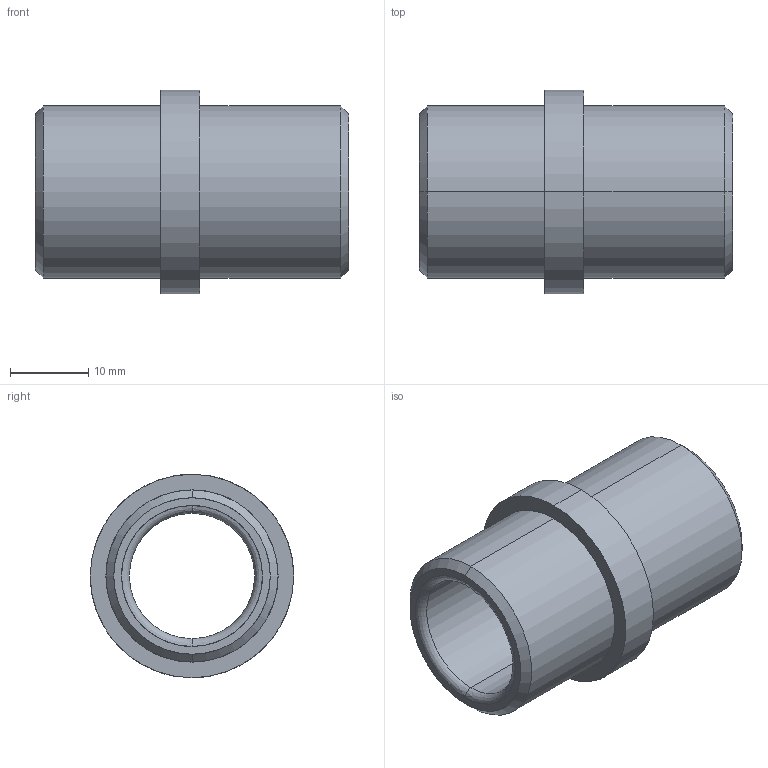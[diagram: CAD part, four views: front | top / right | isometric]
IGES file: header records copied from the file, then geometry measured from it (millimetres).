
Start section: START RECORD GO HERE.
Global section: file name: 355-16X40.igs; native system: DASSAULT SYSTEMES CATIA V5 R20 - www.3ds.com; preprocessor: CATIA Version 5 Release 20 ; author: Utente; organization: NB04-ASUS; date: 20210421.105722; units: millimetre
Bounding box: 40 x 26 x 26 mm (x, y, z)
Surface area: 5372 mm2 (no closed solid volume)
Topology: 0 solids, 0 shells, 20 faces, 128 edges, 128 vertices
Faces by surface type: revolution 16, plane 4
